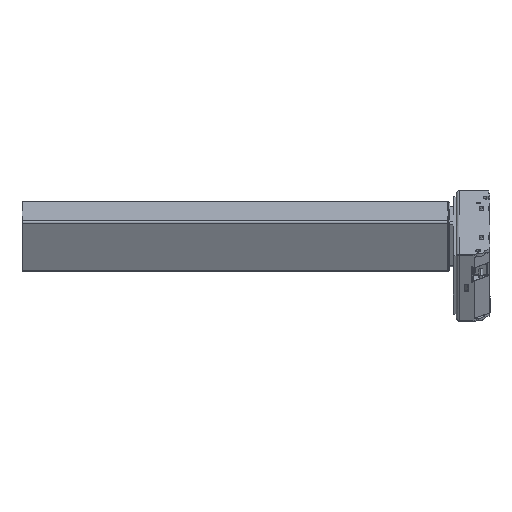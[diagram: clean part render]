
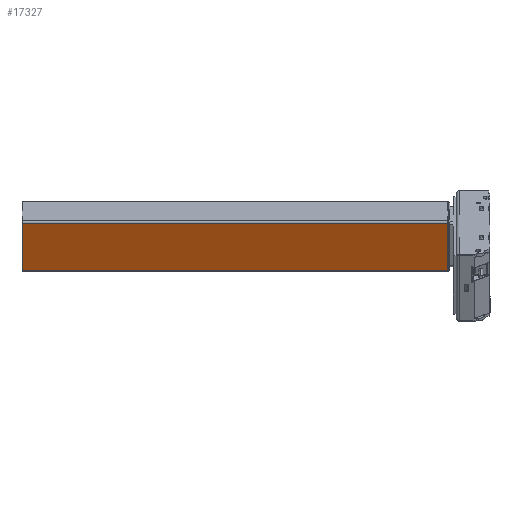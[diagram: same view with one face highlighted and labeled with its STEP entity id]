
A CAD part, left-side view. The second image highlights one B-rep face of the part: STEP entity #17327.
In plain terms, the highlighted planar face has unit normal (-0.877, 0, -0.481).
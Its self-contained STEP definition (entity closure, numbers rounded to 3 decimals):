
#220 = EDGE_CURVE ( 'NONE', #23355, #34626, #19481, .T. ) ;
#1985 = DIRECTION ( 'NONE',  ( 0.877, 0., 0.481 ) ) ;
#2341 = CARTESIAN_POINT ( 'NONE',  ( -1.461, -278.544, 682.636 ) ) ;
#3069 = VECTOR ( 'NONE', #32821, 1000. ) ;
#3099 = FACE_OUTER_BOUND ( 'NONE', #19936, .T. ) ;
#3646 = EDGE_CURVE ( 'NONE', #30112, #11010, #8757, .T. ) ;
#5898 = LINE ( 'NONE', #17500, #34846 ) ;
#6084 = VECTOR ( 'NONE', #34713, 1000. ) ;
#7116 = ORIENTED_EDGE ( 'NONE', *, *, #27857, .T. ) ;
#8757 = LINE ( 'NONE', #20934, #24727 ) ;
#9786 = CARTESIAN_POINT ( 'NONE',  ( 35.566, 307.956, 615.123 ) ) ;
#10850 = CARTESIAN_POINT ( 'NONE',  ( -0.018, -278.544, 680.006 ) ) ;
#11010 = VERTEX_POINT ( 'NONE', #28885 ) ;
#12632 = CARTESIAN_POINT ( 'NONE',  ( -1.461, -278.544, 682.636 ) ) ;
#13180 = PLANE ( 'NONE',  #13741 ) ;
#13741 = AXIS2_PLACEMENT_3D ( 'NONE', #2341, #1985, #26628 ) ;
#15227 = DIRECTION ( 'NONE',  ( -0.481, 0., 0.877 ) ) ;
#17327 = ADVANCED_FACE ( 'NONE', ( #3099 ), #13180, .F. ) ;
#17500 = CARTESIAN_POINT ( 'NONE',  ( 35.566, -278.544, 615.123 ) ) ;
#19072 = CARTESIAN_POINT ( 'NONE',  ( -0.018, -278.544, 680.006 ) ) ;
#19481 = LINE ( 'NONE', #12632, #6084 ) ;
#19936 = EDGE_LOOP ( 'NONE', ( #32201, #25200, #34864, #7116 ) ) ;
#20453 = EDGE_CURVE ( 'NONE', #30112, #34626, #5898, .T. ) ;
#20934 = CARTESIAN_POINT ( 'NONE',  ( 35.566, 307.956, 615.123 ) ) ;
#23355 = VERTEX_POINT ( 'NONE', #19072 ) ;
#24727 = VECTOR ( 'NONE', #15227, 1000. ) ;
#25200 = ORIENTED_EDGE ( 'NONE', *, *, #20453, .T. ) ;
#26628 = DIRECTION ( 'NONE',  ( -0.481, 0., 0.877 ) ) ;
#26728 = CARTESIAN_POINT ( 'NONE',  ( 35.566, -278.544, 615.123 ) ) ;
#27716 = LINE ( 'NONE', #10850, #3069 ) ;
#27857 = EDGE_CURVE ( 'NONE', #23355, #11010, #27716, .T. ) ;
#28678 = DIRECTION ( 'NONE',  ( 0., -1., 0. ) ) ;
#28885 = CARTESIAN_POINT ( 'NONE',  ( -0.018, 307.956, 680.006 ) ) ;
#30112 = VERTEX_POINT ( 'NONE', #9786 ) ;
#32201 = ORIENTED_EDGE ( 'NONE', *, *, #3646, .F. ) ;
#32821 = DIRECTION ( 'NONE',  ( 0., 1., 0. ) ) ;
#34626 = VERTEX_POINT ( 'NONE', #26728 ) ;
#34713 = DIRECTION ( 'NONE',  ( 0.481, 0., -0.877 ) ) ;
#34846 = VECTOR ( 'NONE', #28678, 1000. ) ;
#34864 = ORIENTED_EDGE ( 'NONE', *, *, #220, .F. ) ;
